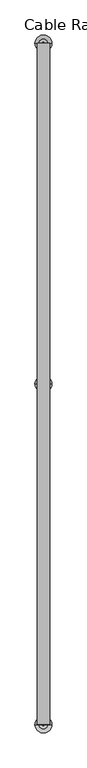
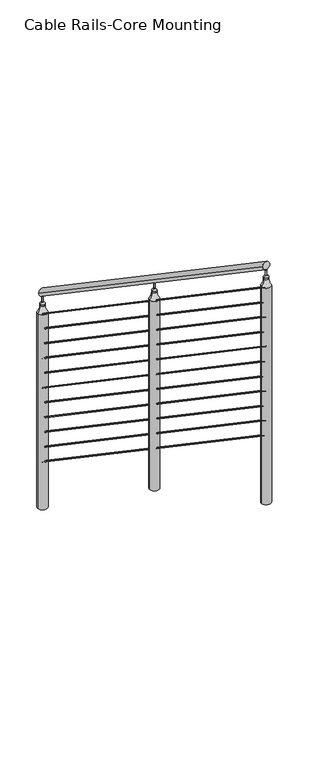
"""IFC4 building model written with IfcOpenShell, lengths in millimetres: railing geometry, Cable Rails-Core Mounting."""

from ifc_helpers import new_model, si_unit, point, frame, origin, place, context, project, spatial, circle_curve, ellipse_curve, trimmed, source, transform, mapped, element, save
from ifc_brep_helpers import plane_surface, cylinder_surface, revolved_surface, advanced_brep


def cable_rails_core_mounting_b1c58ea4(model_context):
    return source(origin(), model_context, "Body", "AdvancedBrep", [
        advanced_brep(
        [(-9508.2387578, -1204.4150713, 1288.843866), (-9470.1387578, -1204.4150713, 1288.843866), (-9508.2387578, -3249.1150713, 2677.7507288), (-9470.1387578, -3249.1150713, 2677.7507288)],
        [
            (0, 1, ellipse_curve(frame((-9489.1887578, -1204.4150713, 1288.843866), z_axis=(0.0, 1.0, 0.0), x_axis=(0.0, 0.0, -1.0)), 23.0293153, 19.05)),
            (1, 0, ellipse_curve(frame((-9489.1887578, -1204.4150713, 1288.843866), z_axis=(0.0, 1.0, 0.0), x_axis=(0.0, 0.0, -1.0)), 23.0293153, 19.05)),
            (2, 3, ellipse_curve(frame((-9489.1887578, -3249.1150713, 2677.7507288), z_axis=(0.0, -1.0, 0.0), x_axis=(0.0, 0.0, -1.0)), 23.0293153, 19.05)),
            (3, 2, ellipse_curve(frame((-9489.1887578, -3249.1150713, 2677.7507288), z_axis=(0.0, -1.0, 0.0), x_axis=(0.0, 0.0, -1.0)), 23.0293153, 19.05)),
            (0, 2),
            (3, 1),
        ],
        [
            plane_surface(frame((-9489.1887578, -1204.4150713, 1311.8731813), z_axis=(0.0, 1.0, 0.0), x_axis=(0.0, 0.0, -1.0))),
            plane_surface(frame((-9489.1887578, -3249.1150713, 2700.780044), z_axis=(0.0, -1.0, 0.0), x_axis=(0.0, 0.0, -1.0))),
            cylinder_surface(frame((-9489.1887578, -1215.1192281, 1296.1148969), z_axis=(0.0, 0.827206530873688, -0.5618979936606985), x_axis=(1.0, 0.0, 0.0)), 19.05),
        ],
        [
            (0, [[1, 2]]),
            (1, [[3, 4]]),
            (2, [[-1, 5, -4, 6]]),
            (2, [[-2, -6, -3, -5]]),
        ],
    ),
        advanced_brep(
        [(-9492.3637578, -1204.4150713, 1168.3349621), (-9486.0137578, -1204.4150713, 1168.3349621), (-9492.3637578, -3249.1150713, 2557.2418248), (-9486.0137578, -3249.1150713, 2557.2418248)],
        [
            (0, 1, ellipse_curve(frame((-9489.1887578, -1204.4150713, 1168.3349621), z_axis=(0.0, 1.0, 0.0), x_axis=(0.0, 0.0, -1.0)), 3.8382192, 3.175)),
            (1, 0, ellipse_curve(frame((-9489.1887578, -1204.4150713, 1168.3349621), z_axis=(0.0, 1.0, 0.0), x_axis=(0.0, 0.0, -1.0)), 3.8382192, 3.175)),
            (2, 3, ellipse_curve(frame((-9489.1887578, -3249.1150713, 2557.2418248), z_axis=(0.0, -1.0, 0.0), x_axis=(0.0, 0.0, -1.0)), 3.8382192, 3.175)),
            (3, 2, ellipse_curve(frame((-9489.1887578, -3249.1150713, 2557.2418248), z_axis=(0.0, -1.0, 0.0), x_axis=(0.0, 0.0, -1.0)), 3.8382192, 3.175)),
            (0, 2),
            (3, 1),
        ],
        [
            plane_surface(frame((-9489.1887578, -1204.4150713, 1172.1731813), z_axis=(0.0, 1.0, 0.0), x_axis=(0.0, 0.0, -1.0))),
            plane_surface(frame((-9489.1887578, -3249.1150713, 2561.080044), z_axis=(0.0, -1.0, 0.0), x_axis=(0.0, 0.0, -1.0))),
            cylinder_surface(frame((-9489.1887578, -1206.1990974, 1169.5468006), z_axis=(0.0, 0.8272065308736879, -0.5618979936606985), x_axis=(1.0, 0.0, 0.0)), 3.175),
        ],
        [
            (0, [[1, 2]]),
            (1, [[3, 4]]),
            (2, [[-1, 5, -4, 6]]),
            (2, [[-2, -6, -3, -5]]),
        ],
    ),
        advanced_brep(
        [(-9492.3637578, -1204.4150713, 1085.7849621), (-9486.0137578, -1204.4150713, 1085.7849621), (-9492.3637578, -3249.1150713, 2474.6918248), (-9486.0137578, -3249.1150713, 2474.6918248)],
        [
            (0, 1, ellipse_curve(frame((-9489.1887578, -1204.4150713, 1085.7849621), z_axis=(0.0, 1.0, 0.0), x_axis=(0.0, 0.0, -1.0)), 3.8382192, 3.175)),
            (1, 0, ellipse_curve(frame((-9489.1887578, -1204.4150713, 1085.7849621), z_axis=(0.0, 1.0, 0.0), x_axis=(0.0, 0.0, -1.0)), 3.8382192, 3.175)),
            (2, 3, ellipse_curve(frame((-9489.1887578, -3249.1150713, 2474.6918248), z_axis=(0.0, -1.0, 0.0), x_axis=(0.0, 0.0, -1.0)), 3.8382192, 3.175)),
            (3, 2, ellipse_curve(frame((-9489.1887578, -3249.1150713, 2474.6918248), z_axis=(0.0, -1.0, 0.0), x_axis=(0.0, 0.0, -1.0)), 3.8382192, 3.175)),
            (0, 2),
            (3, 1),
        ],
        [
            plane_surface(frame((-9489.1887578, -1204.4150713, 1089.6231813), z_axis=(0.0, 1.0, 0.0), x_axis=(0.0, 0.0, -1.0))),
            plane_surface(frame((-9489.1887578, -3249.1150713, 2478.530044), z_axis=(0.0, -1.0, 0.0), x_axis=(0.0, 0.0, -1.0))),
            cylinder_surface(frame((-9489.1887578, -1206.1990974, 1086.9968006), z_axis=(0.0, 0.8272065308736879, -0.5618979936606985), x_axis=(1.0, 0.0, 0.0)), 3.175),
        ],
        [
            (0, [[1, 2]]),
            (1, [[3, 4]]),
            (2, [[-1, 5, -4, 6]]),
            (2, [[-2, -6, -3, -5]]),
        ],
    ),
        advanced_brep(
        [(-9492.3637578, -1204.4150713, 1003.2349621), (-9486.0137578, -1204.4150713, 1003.2349621), (-9492.3637578, -3249.1150713, 2392.1418248), (-9486.0137578, -3249.1150713, 2392.1418248)],
        [
            (0, 1, ellipse_curve(frame((-9489.1887578, -1204.4150713, 1003.2349621), z_axis=(0.0, 1.0, 0.0), x_axis=(0.0, 0.0, -1.0)), 3.8382192, 3.175)),
            (1, 0, ellipse_curve(frame((-9489.1887578, -1204.4150713, 1003.2349621), z_axis=(0.0, 1.0, 0.0), x_axis=(0.0, 0.0, -1.0)), 3.8382192, 3.175)),
            (2, 3, ellipse_curve(frame((-9489.1887578, -3249.1150713, 2392.1418248), z_axis=(0.0, -1.0, 0.0), x_axis=(0.0, 0.0, -1.0)), 3.8382192, 3.175)),
            (3, 2, ellipse_curve(frame((-9489.1887578, -3249.1150713, 2392.1418248), z_axis=(0.0, -1.0, 0.0), x_axis=(0.0, 0.0, -1.0)), 3.8382192, 3.175)),
            (0, 2),
            (3, 1),
        ],
        [
            plane_surface(frame((-9489.1887578, -1204.4150713, 1007.0731813), z_axis=(0.0, 1.0, 0.0), x_axis=(0.0, 0.0, -1.0))),
            plane_surface(frame((-9489.1887578, -3249.1150713, 2395.980044), z_axis=(0.0, -1.0, 0.0), x_axis=(0.0, 0.0, -1.0))),
            cylinder_surface(frame((-9489.1887578, -1206.1990974, 1004.4468006), z_axis=(0.0, 0.827206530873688, -0.5618979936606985), x_axis=(1.0, 0.0, 0.0)), 3.175),
        ],
        [
            (0, [[1, 2]]),
            (1, [[3, 4]]),
            (2, [[-1, 5, -4, 6]]),
            (2, [[-2, -6, -3, -5]]),
        ],
    ),
        advanced_brep(
        [(-9492.3637578, -1204.4150713, 920.6849621), (-9486.0137578, -1204.4150713, 920.6849621), (-9492.3637578, -3249.1150713, 2309.5918248), (-9486.0137578, -3249.1150713, 2309.5918248)],
        [
            (0, 1, ellipse_curve(frame((-9489.1887578, -1204.4150713, 920.6849621), z_axis=(0.0, 1.0, 0.0), x_axis=(0.0, 0.0, -1.0)), 3.8382192, 3.175)),
            (1, 0, ellipse_curve(frame((-9489.1887578, -1204.4150713, 920.6849621), z_axis=(0.0, 1.0, 0.0), x_axis=(0.0, 0.0, -1.0)), 3.8382192, 3.175)),
            (2, 3, ellipse_curve(frame((-9489.1887578, -3249.1150713, 2309.5918248), z_axis=(0.0, -1.0, 0.0), x_axis=(0.0, 0.0, -1.0)), 3.8382192, 3.175)),
            (3, 2, ellipse_curve(frame((-9489.1887578, -3249.1150713, 2309.5918248), z_axis=(0.0, -1.0, 0.0), x_axis=(0.0, 0.0, -1.0)), 3.8382192, 3.175)),
            (0, 2),
            (3, 1),
        ],
        [
            plane_surface(frame((-9489.1887578, -1204.4150713, 924.5231813), z_axis=(0.0, 1.0, 0.0), x_axis=(0.0, 0.0, -1.0))),
            plane_surface(frame((-9489.1887578, -3249.1150713, 2313.430044), z_axis=(0.0, -1.0, 0.0), x_axis=(0.0, 0.0, -1.0))),
            cylinder_surface(frame((-9489.1887578, -1206.1990974, 921.8968006), z_axis=(0.0, 0.8272065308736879, -0.5618979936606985), x_axis=(1.0, 0.0, 0.0)), 3.175),
        ],
        [
            (0, [[1, 2]]),
            (1, [[3, 4]]),
            (2, [[-1, 5, -4, 6]]),
            (2, [[-2, -6, -3, -5]]),
        ],
    ),
        advanced_brep(
        [(-9492.3637578, -1204.4150713, 838.1349621), (-9486.0137578, -1204.4150713, 838.1349621), (-9492.3637578, -3249.1150713, 2227.0418248), (-9486.0137578, -3249.1150713, 2227.0418248)],
        [
            (0, 1, ellipse_curve(frame((-9489.1887578, -1204.4150713, 838.1349621), z_axis=(0.0, 1.0, 0.0), x_axis=(0.0, 0.0, -1.0)), 3.8382192, 3.175)),
            (1, 0, ellipse_curve(frame((-9489.1887578, -1204.4150713, 838.1349621), z_axis=(0.0, 1.0, 0.0), x_axis=(0.0, 0.0, -1.0)), 3.8382192, 3.175)),
            (2, 3, ellipse_curve(frame((-9489.1887578, -3249.1150713, 2227.0418248), z_axis=(0.0, -1.0, 0.0), x_axis=(0.0, 0.0, -1.0)), 3.8382192, 3.175)),
            (3, 2, ellipse_curve(frame((-9489.1887578, -3249.1150713, 2227.0418248), z_axis=(0.0, -1.0, 0.0), x_axis=(0.0, 0.0, -1.0)), 3.8382192, 3.175)),
            (0, 2),
            (3, 1),
        ],
        [
            plane_surface(frame((-9489.1887578, -1204.4150713, 841.9731813), z_axis=(0.0, 1.0, 0.0), x_axis=(0.0, 0.0, -1.0))),
            plane_surface(frame((-9489.1887578, -3249.1150713, 2230.880044), z_axis=(0.0, -1.0, 0.0), x_axis=(0.0, 0.0, -1.0))),
            cylinder_surface(frame((-9489.1887578, -1206.1990974, 839.3468006), z_axis=(0.0, 0.8272065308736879, -0.5618979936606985), x_axis=(1.0, 0.0, 0.0)), 3.175),
        ],
        [
            (0, [[1, 2]]),
            (1, [[3, 4]]),
            (2, [[-1, 5, -4, 6]]),
            (2, [[-2, -6, -3, -5]]),
        ],
    ),
        advanced_brep(
        [(-9492.3637578, -1204.4150713, 755.5849621), (-9486.0137578, -1204.4150713, 755.5849621), (-9492.3637578, -3249.1150713, 2144.4918248), (-9486.0137578, -3249.1150713, 2144.4918248)],
        [
            (0, 1, ellipse_curve(frame((-9489.1887578, -1204.4150713, 755.5849621), z_axis=(0.0, 1.0, 0.0), x_axis=(0.0, 0.0, -1.0)), 3.8382192, 3.175)),
            (1, 0, ellipse_curve(frame((-9489.1887578, -1204.4150713, 755.5849621), z_axis=(0.0, 1.0, 0.0), x_axis=(0.0, 0.0, -1.0)), 3.8382192, 3.175)),
            (2, 3, ellipse_curve(frame((-9489.1887578, -3249.1150713, 2144.4918248), z_axis=(0.0, -1.0, 0.0), x_axis=(0.0, 0.0, -1.0)), 3.8382192, 3.175)),
            (3, 2, ellipse_curve(frame((-9489.1887578, -3249.1150713, 2144.4918248), z_axis=(0.0, -1.0, 0.0), x_axis=(0.0, 0.0, -1.0)), 3.8382192, 3.175)),
            (0, 2),
            (3, 1),
        ],
        [
            plane_surface(frame((-9489.1887578, -1204.4150713, 759.4231813), z_axis=(0.0, 1.0, 0.0), x_axis=(0.0, 0.0, -1.0))),
            plane_surface(frame((-9489.1887578, -3249.1150713, 2148.330044), z_axis=(0.0, -1.0, 0.0), x_axis=(0.0, 0.0, -1.0))),
            cylinder_surface(frame((-9489.1887578, -1206.1990974, 756.7968006), z_axis=(0.0, 0.827206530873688, -0.5618979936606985), x_axis=(1.0, 0.0, 0.0)), 3.175),
        ],
        [
            (0, [[1, 2]]),
            (1, [[3, 4]]),
            (2, [[-1, 5, -4, 6]]),
            (2, [[-2, -6, -3, -5]]),
        ],
    ),
        advanced_brep(
        [(-9492.3637578, -1204.4150713, 673.0349621), (-9486.0137578, -1204.4150713, 673.0349621), (-9492.3637578, -3249.1150713, 2061.9418248), (-9486.0137578, -3249.1150713, 2061.9418248)],
        [
            (0, 1, ellipse_curve(frame((-9489.1887578, -1204.4150713, 673.0349621), z_axis=(0.0, 1.0, 0.0), x_axis=(0.0, 0.0, -1.0)), 3.8382192, 3.175)),
            (1, 0, ellipse_curve(frame((-9489.1887578, -1204.4150713, 673.0349621), z_axis=(0.0, 1.0, 0.0), x_axis=(0.0, 0.0, -1.0)), 3.8382192, 3.175)),
            (2, 3, ellipse_curve(frame((-9489.1887578, -3249.1150713, 2061.9418248), z_axis=(0.0, -1.0, 0.0), x_axis=(0.0, 0.0, -1.0)), 3.8382192, 3.175)),
            (3, 2, ellipse_curve(frame((-9489.1887578, -3249.1150713, 2061.9418248), z_axis=(0.0, -1.0, 0.0), x_axis=(0.0, 0.0, -1.0)), 3.8382192, 3.175)),
            (0, 2),
            (3, 1),
        ],
        [
            plane_surface(frame((-9489.1887578, -1204.4150713, 676.8731813), z_axis=(0.0, 1.0, 0.0), x_axis=(0.0, 0.0, -1.0))),
            plane_surface(frame((-9489.1887578, -3249.1150713, 2065.780044), z_axis=(0.0, -1.0, 0.0), x_axis=(0.0, 0.0, -1.0))),
            cylinder_surface(frame((-9489.1887578, -1206.1990974, 674.2468006), z_axis=(0.0, 0.8272065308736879, -0.5618979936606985), x_axis=(1.0, 0.0, 0.0)), 3.175),
        ],
        [
            (0, [[1, 2]]),
            (1, [[3, 4]]),
            (2, [[-1, 5, -4, 6]]),
            (2, [[-2, -6, -3, -5]]),
        ],
    ),
        advanced_brep(
        [(-9492.3637578, -1204.4150713, 590.4849621), (-9486.0137578, -1204.4150713, 590.4849621), (-9492.3637578, -3249.1150713, 1979.3918248), (-9486.0137578, -3249.1150713, 1979.3918248)],
        [
            (0, 1, ellipse_curve(frame((-9489.1887578, -1204.4150713, 590.4849621), z_axis=(0.0, 1.0, 0.0), x_axis=(0.0, 0.0, -1.0)), 3.8382192, 3.175)),
            (1, 0, ellipse_curve(frame((-9489.1887578, -1204.4150713, 590.4849621), z_axis=(0.0, 1.0, 0.0), x_axis=(0.0, 0.0, -1.0)), 3.8382192, 3.175)),
            (2, 3, ellipse_curve(frame((-9489.1887578, -3249.1150713, 1979.3918248), z_axis=(0.0, -1.0, 0.0), x_axis=(0.0, 0.0, -1.0)), 3.8382192, 3.175)),
            (3, 2, ellipse_curve(frame((-9489.1887578, -3249.1150713, 1979.3918248), z_axis=(0.0, -1.0, 0.0), x_axis=(0.0, 0.0, -1.0)), 3.8382192, 3.175)),
            (0, 2),
            (3, 1),
        ],
        [
            plane_surface(frame((-9489.1887578, -1204.4150713, 594.3231813), z_axis=(0.0, 1.0, 0.0), x_axis=(0.0, 0.0, -1.0))),
            plane_surface(frame((-9489.1887578, -3249.1150713, 1983.230044), z_axis=(0.0, -1.0, 0.0), x_axis=(0.0, 0.0, -1.0))),
            cylinder_surface(frame((-9489.1887578, -1206.1990974, 591.6968006), z_axis=(0.0, 0.8272065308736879, -0.5618979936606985), x_axis=(1.0, 0.0, 0.0)), 3.175),
        ],
        [
            (0, [[1, 2]]),
            (1, [[3, 4]]),
            (2, [[-1, 5, -4, 6]]),
            (2, [[-2, -6, -3, -5]]),
        ],
    ),
        advanced_brep(
        [(-9492.3637578, -1204.4150713, 507.9349621), (-9486.0137578, -1204.4150713, 507.9349621), (-9492.3637578, -3249.1150713, 1896.8418248), (-9486.0137578, -3249.1150713, 1896.8418248)],
        [
            (0, 1, ellipse_curve(frame((-9489.1887578, -1204.4150713, 507.9349621), z_axis=(0.0, 1.0, 0.0), x_axis=(0.0, 0.0, -1.0)), 3.8382192, 3.175)),
            (1, 0, ellipse_curve(frame((-9489.1887578, -1204.4150713, 507.9349621), z_axis=(0.0, 1.0, 0.0), x_axis=(0.0, 0.0, -1.0)), 3.8382192, 3.175)),
            (2, 3, ellipse_curve(frame((-9489.1887578, -3249.1150713, 1896.8418248), z_axis=(0.0, -1.0, 0.0), x_axis=(0.0, 0.0, -1.0)), 3.8382192, 3.175)),
            (3, 2, ellipse_curve(frame((-9489.1887578, -3249.1150713, 1896.8418248), z_axis=(0.0, -1.0, 0.0), x_axis=(0.0, 0.0, -1.0)), 3.8382192, 3.175)),
            (0, 2),
            (3, 1),
        ],
        [
            plane_surface(frame((-9489.1887578, -1204.4150713, 511.7731813), z_axis=(0.0, 1.0, 0.0), x_axis=(0.0, 0.0, -1.0))),
            plane_surface(frame((-9489.1887578, -3249.1150713, 1900.680044), z_axis=(0.0, -1.0, 0.0), x_axis=(0.0, 0.0, -1.0))),
            cylinder_surface(frame((-9489.1887578, -1206.1990974, 509.1468006), z_axis=(0.0, 0.8272065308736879, -0.5618979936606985), x_axis=(1.0, 0.0, 0.0)), 3.175),
        ],
        [
            (0, [[1, 2]]),
            (1, [[3, 4]]),
            (2, [[-1, 5, -4, 6]]),
            (2, [[-2, -6, -3, -5]]),
        ],
    ),
        advanced_brep(
        [(-9492.3637578, -1204.4150713, 425.3849621), (-9486.0137578, -1204.4150713, 425.3849621), (-9492.3637578, -3249.1150713, 1814.2918248), (-9486.0137578, -3249.1150713, 1814.2918248)],
        [
            (0, 1, ellipse_curve(frame((-9489.1887578, -1204.4150713, 425.3849621), z_axis=(0.0, 1.0, 0.0), x_axis=(0.0, 0.0, -1.0)), 3.8382192, 3.175)),
            (1, 0, ellipse_curve(frame((-9489.1887578, -1204.4150713, 425.3849621), z_axis=(0.0, 1.0, 0.0), x_axis=(0.0, 0.0, -1.0)), 3.8382192, 3.175)),
            (2, 3, ellipse_curve(frame((-9489.1887578, -3249.1150713, 1814.2918248), z_axis=(0.0, -1.0, 0.0), x_axis=(0.0, 0.0, -1.0)), 3.8382192, 3.175)),
            (3, 2, ellipse_curve(frame((-9489.1887578, -3249.1150713, 1814.2918248), z_axis=(0.0, -1.0, 0.0), x_axis=(0.0, 0.0, -1.0)), 3.8382192, 3.175)),
            (0, 2),
            (3, 1),
        ],
        [
            plane_surface(frame((-9489.1887578, -1204.4150713, 429.2231813), z_axis=(0.0, 1.0, 0.0), x_axis=(0.0, 0.0, -1.0))),
            plane_surface(frame((-9489.1887578, -3249.1150713, 1818.130044), z_axis=(0.0, -1.0, 0.0), x_axis=(0.0, 0.0, -1.0))),
            cylinder_surface(frame((-9489.1887578, -1206.1990974, 426.5968006), z_axis=(0.0, 0.8272065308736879, -0.5618979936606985), x_axis=(1.0, 0.0, 0.0)), 3.175),
        ],
        [
            (0, [[1, 2]]),
            (1, [[3, 4]]),
            (2, [[-1, 5, -4, 6]]),
            (2, [[-2, -6, -3, -5]]),
        ],
    ),
        advanced_brep(
        [(-9492.3637578, -1204.4150713, 342.8349621), (-9486.0137578, -1204.4150713, 342.8349621), (-9492.3637578, -3249.1150713, 1731.7418248), (-9486.0137578, -3249.1150713, 1731.7418248)],
        [
            (0, 1, ellipse_curve(frame((-9489.1887578, -1204.4150713, 342.8349621), z_axis=(0.0, 1.0, 0.0), x_axis=(0.0, 0.0, -1.0)), 3.8382192, 3.175)),
            (1, 0, ellipse_curve(frame((-9489.1887578, -1204.4150713, 342.8349621), z_axis=(0.0, 1.0, 0.0), x_axis=(0.0, 0.0, -1.0)), 3.8382192, 3.175)),
            (2, 3, ellipse_curve(frame((-9489.1887578, -3249.1150713, 1731.7418248), z_axis=(0.0, -1.0, 0.0), x_axis=(0.0, 0.0, -1.0)), 3.8382192, 3.175)),
            (3, 2, ellipse_curve(frame((-9489.1887578, -3249.1150713, 1731.7418248), z_axis=(0.0, -1.0, 0.0), x_axis=(0.0, 0.0, -1.0)), 3.8382192, 3.175)),
            (0, 2),
            (3, 1),
        ],
        [
            plane_surface(frame((-9489.1887578, -1204.4150713, 346.6731813), z_axis=(0.0, 1.0, 0.0), x_axis=(0.0, 0.0, -1.0))),
            plane_surface(frame((-9489.1887578, -3249.1150713, 1735.580044), z_axis=(0.0, -1.0, 0.0), x_axis=(0.0, 0.0, -1.0))),
            cylinder_surface(frame((-9489.1887578, -1206.1990974, 344.0468006), z_axis=(0.0, 0.8272065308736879, -0.5618979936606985), x_axis=(1.0, 0.0, 0.0)), 3.175),
        ],
        [
            (0, [[1, 2]]),
            (1, [[3, 4]]),
            (2, [[-1, 5, -4, 6]]),
            (2, [[-2, -6, -3, -5]]),
        ],
    ),
        advanced_brep(
        [(-9463.78936, -2227.1619463, 1872.7027675), (-9463.78936, -2227.1619463, 816.9088235), (-9514.5881556, -2227.1619463, 816.9088235), (-9514.5881556, -2227.1619463, 1872.7027675), (-9476.4507892, -2227.1619463, 1910.9166023), (-9501.9267263, -2227.1619463, 1910.9166023), (-9476.4507892, -2227.1619463, 1919.8996598), (-9501.9267263, -2227.1619463, 1919.8996598), (-9485.5892556, -2227.1619463, 1928.858257), (-9492.78826, -2227.1619463, 1928.858257), (-9485.5892556, -2227.1619463, 1960.2679821), (-9492.78826, -2227.1619463, 1960.2679821), (-9489.1887578, -2227.1619463, 1960.2679821), (-9489.1887578, -2227.1619463, 816.9088235)],
        [
            (0, 1),
            (1, 2, circle_curve(frame((-9489.1887578, -2227.1619463, 816.9088235), z_axis=(0.0, 0.0, 1.0), x_axis=(-1.0, 0.0, 0.0)), 25.3993978)),
            (2, 3),
            (3, 0, circle_curve(frame((-9489.1887578, -2227.1619463, 1872.7027675), z_axis=(0.0, 0.0, -1.0), x_axis=(-1.0, 0.0, 0.0)), 25.3993978)),
            (2, 1, circle_curve(frame((-9489.1887578, -2227.1619463, 816.9088235), z_axis=(0.0, 0.0, 1.0), x_axis=(-1.0, 0.0, 0.0)), 25.3993978)),
            (0, 3, circle_curve(frame((-9489.1887578, -2227.1619463, 1872.7027675), z_axis=(0.0, 0.0, -1.0), x_axis=(-1.0, 0.0, 0.0)), 25.3993978)),
            (4, 0, circle_curve(frame((-9412.4529209, -2227.1619463, 1910.9166023), z_axis=(0.0, -1.0, 0.0), x_axis=(1.0, 0.0, 0.0)), 63.9978683)),
            (3, 5, circle_curve(frame((-9565.9245946, -2227.1619463, 1910.9166023), z_axis=(0.0, -1.0, 0.0), x_axis=(-1.0, 0.0, 0.0)), 63.9978683)),
            (5, 4, circle_curve(frame((-9489.1887578, -2227.1619463, 1910.9166023), z_axis=(0.0, 0.0, -1.0), x_axis=(-1.0, 0.0, 0.0)), 12.7379685)),
            (4, 5, circle_curve(frame((-9489.1887578, -2227.1619463, 1910.9166023), z_axis=(0.0, 0.0, -1.0), x_axis=(-1.0, 0.0, 0.0)), 12.7379685)),
            (6, 4),
            (5, 7),
            (7, 6, circle_curve(frame((-9489.1887578, -2227.1619463, 1919.8996598), z_axis=(0.0, 0.0, -1.0), x_axis=(-1.0, 0.0, 0.0)), 12.7379685)),
            (6, 7, circle_curve(frame((-9489.1887578, -2227.1619463, 1919.8996598), z_axis=(0.0, 0.0, -1.0), x_axis=(-1.0, 0.0, 0.0)), 12.7379685)),
            (8, 6, circle_curve(frame((-9489.2288836, -2227.1619463, 1916.0052811), z_axis=(0.0, 1.0, 0.0), x_axis=(1.0, 0.0, 0.0)), 13.3583638)),
            (7, 9, circle_curve(frame((-9489.148632, -2227.1619463, 1916.0052811), z_axis=(0.0, 1.0, 0.0), x_axis=(-1.0, 0.0, 0.0)), 13.3583638)),
            (9, 8, circle_curve(frame((-9489.1887578, -2227.1619463, 1928.858257), z_axis=(0.0, 0.0, -1.0), x_axis=(-1.0, 0.0, 0.0)), 3.5995022)),
            (8, 9, circle_curve(frame((-9489.1887578, -2227.1619463, 1928.858257), z_axis=(0.0, 0.0, -1.0), x_axis=(-1.0, 0.0, 0.0)), 3.5995022)),
            (10, 8),
            (9, 11),
            (11, 10, circle_curve(frame((-9489.1887578, -2227.1619463, 1960.2679821), z_axis=(0.0, 0.0, -1.0), x_axis=(-1.0, 0.0, 0.0)), 3.5995022)),
            (10, 11, circle_curve(frame((-9489.1887578, -2227.1619463, 1960.2679821), z_axis=(0.0, 0.0, -1.0), x_axis=(-1.0, 0.0, 0.0)), 3.5995022)),
            (12, 10),
            (11, 12),
            (1, 13),
            (13, 2),
        ],
        [
            cylinder_surface(frame((-9489.1887578, -2227.1619463, 2036.4679821), z_axis=(0.0, 0.0, 1.0), x_axis=(-1.0, 0.0, 0.0)), 25.3993978),
            revolved_surface(trimmed(ellipse_curve(frame((-9565.9245946, -2227.1619463, 1910.9166023), z_axis=(0.0, -1.0, 0.0), x_axis=(-1.0, 0.0, 0.0)), 63.9978683, 63.9978683), [point((-9514.5881556, -2227.1619463, 1872.7027675))], [point((-9501.9267263, -2227.1619463, 1910.9166023))], True, "CARTESIAN"), (-9489.1887578, -2227.1619463, 2036.4679821), (0.0, 0.0, 1.0)),
            cylinder_surface(frame((-9489.1887578, -2227.1619463, 2036.4679821), z_axis=(0.0, 0.0, 1.0), x_axis=(-1.0, 0.0, 0.0)), 12.7379685),
            revolved_surface(trimmed(ellipse_curve(frame((-9489.148632, -2227.1619463, 1916.0052811), z_axis=(0.0, 1.0, 0.0), x_axis=(-1.0, 0.0, 0.0)), 13.3583638, 13.3583638), [point((-9501.9267263, -2227.1619463, 1919.8996598))], [point((-9492.78826, -2227.1619463, 1928.858257))], True, "CARTESIAN"), (-9489.1887578, -2227.1619463, 2036.4679821), (0.0, 0.0, 1.0)),
            cylinder_surface(frame((-9489.1887578, -2227.1619463, 2036.4679821), z_axis=(0.0, 0.0, 1.0), x_axis=(-1.0, 0.0, 0.0)), 3.5995022),
            plane_surface(frame((-9489.1887578, -2227.1619463, 1960.2679821), z_axis=(0.0, 0.0, 1.0), x_axis=(-1.0, 0.0, 0.0))),
            plane_surface(frame((-9489.1887578, -2227.1619463, 816.9088235), z_axis=(0.0, 0.0, -1.0), x_axis=(-1.0, 0.0, 0.0))),
        ],
        [
            (0, [[1, 2, 3, 4]]),
            (0, [[-3, 5, -1, 6]]),
            (1, [[7, -4, 8, 9]]),
            (1, [[-8, -6, -7, 10]]),
            (2, [[11, -9, 12, 13]]),
            (2, [[-12, -10, -11, 14]]),
            (3, [[15, -13, 16, 17]]),
            (3, [[-16, -14, -15, 18]]),
            (4, [[19, -17, 20, 21]]),
            (4, [[-20, -18, -19, 22]]),
            (5, [[23, -21, 24]]),
            (5, [[-24, -22, -23]]),
            (6, [[25, 26, -2]]),
            (6, [[-26, -25, -5]]),
        ],
    ),
        advanced_brep(
        [(-9463.78936, -3249.5119463, 2567.1561989), (-9463.78936, -3249.5119463, 1360.3941176), (-9514.5881556, -3249.5119463, 1360.3941176), (-9514.5881556, -3249.5119463, 2567.1561989), (-9476.4507892, -3249.5119463, 2605.3700337), (-9501.9267263, -3249.5119463, 2605.3700337), (-9476.4507892, -3249.5119463, 2614.3530912), (-9501.9267263, -3249.5119463, 2614.3530912), (-9485.5892556, -3249.5119463, 2623.3116883), (-9492.78826, -3249.5119463, 2623.3116883), (-9485.5892556, -3249.5119463, 2654.7214135), (-9492.78826, -3249.5119463, 2654.7214135), (-9489.1887578, -3249.5119463, 2654.7214135), (-9489.1887578, -3249.5119463, 1360.3941176)],
        [
            (0, 1),
            (1, 2, circle_curve(frame((-9489.1887578, -3249.5119463, 1360.3941176), z_axis=(0.0, 0.0, 1.0), x_axis=(-1.0, 0.0, 0.0)), 25.3993978)),
            (2, 3),
            (3, 0, circle_curve(frame((-9489.1887578, -3249.5119463, 2567.1561989), z_axis=(0.0, 0.0, -1.0), x_axis=(-1.0, 0.0, 0.0)), 25.3993978)),
            (2, 1, circle_curve(frame((-9489.1887578, -3249.5119463, 1360.3941176), z_axis=(0.0, 0.0, 1.0), x_axis=(-1.0, 0.0, 0.0)), 25.3993978)),
            (0, 3, circle_curve(frame((-9489.1887578, -3249.5119463, 2567.1561989), z_axis=(0.0, 0.0, -1.0), x_axis=(-1.0, 0.0, 0.0)), 25.3993978)),
            (4, 0, circle_curve(frame((-9412.4529209, -3249.5119463, 2605.3700337), z_axis=(0.0, -1.0, 0.0), x_axis=(1.0, 0.0, 0.0)), 63.9978683)),
            (3, 5, circle_curve(frame((-9565.9245946, -3249.5119463, 2605.3700337), z_axis=(0.0, -1.0, 0.0), x_axis=(-1.0, 0.0, 0.0)), 63.9978683)),
            (5, 4, circle_curve(frame((-9489.1887578, -3249.5119463, 2605.3700337), z_axis=(0.0, 0.0, -1.0), x_axis=(-1.0, 0.0, 0.0)), 12.7379685)),
            (4, 5, circle_curve(frame((-9489.1887578, -3249.5119463, 2605.3700337), z_axis=(0.0, 0.0, -1.0), x_axis=(-1.0, 0.0, 0.0)), 12.7379685)),
            (6, 4),
            (5, 7),
            (7, 6, circle_curve(frame((-9489.1887578, -3249.5119463, 2614.3530912), z_axis=(0.0, 0.0, -1.0), x_axis=(-1.0, 0.0, 0.0)), 12.7379685)),
            (6, 7, circle_curve(frame((-9489.1887578, -3249.5119463, 2614.3530912), z_axis=(0.0, 0.0, -1.0), x_axis=(-1.0, 0.0, 0.0)), 12.7379685)),
            (8, 6, circle_curve(frame((-9489.2288836, -3249.5119463, 2610.4587124), z_axis=(0.0, 1.0, 0.0), x_axis=(1.0, 0.0, 0.0)), 13.3583638)),
            (7, 9, circle_curve(frame((-9489.148632, -3249.5119463, 2610.4587124), z_axis=(0.0, 1.0, 0.0), x_axis=(-1.0, 0.0, 0.0)), 13.3583638)),
            (9, 8, circle_curve(frame((-9489.1887578, -3249.5119463, 2623.3116883), z_axis=(0.0, 0.0, -1.0), x_axis=(-1.0, 0.0, 0.0)), 3.5995022)),
            (8, 9, circle_curve(frame((-9489.1887578, -3249.5119463, 2623.3116883), z_axis=(0.0, 0.0, -1.0), x_axis=(-1.0, 0.0, 0.0)), 3.5995022)),
            (10, 8),
            (9, 11),
            (11, 10, circle_curve(frame((-9489.1887578, -3249.5119463, 2654.7214135), z_axis=(0.0, 0.0, -1.0), x_axis=(-1.0, 0.0, 0.0)), 3.5995022)),
            (10, 11, circle_curve(frame((-9489.1887578, -3249.5119463, 2654.7214135), z_axis=(0.0, 0.0, -1.0), x_axis=(-1.0, 0.0, 0.0)), 3.5995022)),
            (12, 10),
            (11, 12),
            (1, 13),
            (13, 2),
        ],
        [
            cylinder_surface(frame((-9489.1887578, -3249.5119463, 2730.9214135), z_axis=(0.0, 0.0, 1.0), x_axis=(-1.0, 0.0, 0.0)), 25.3993978),
            revolved_surface(trimmed(ellipse_curve(frame((-9565.9245946, -3249.5119463, 2605.3700337), z_axis=(0.0, -1.0, 0.0), x_axis=(-1.0, 0.0, 0.0)), 63.9978683, 63.9978683), [point((-9514.5881556, -3249.5119463, 2567.1561989))], [point((-9501.9267263, -3249.5119463, 2605.3700337))], True, "CARTESIAN"), (-9489.1887578, -3249.5119463, 2730.9214135), (0.0, 0.0, 1.0)),
            cylinder_surface(frame((-9489.1887578, -3249.5119463, 2730.9214135), z_axis=(0.0, 0.0, 1.0), x_axis=(-1.0, 0.0, 0.0)), 12.7379685),
            revolved_surface(trimmed(ellipse_curve(frame((-9489.148632, -3249.5119463, 2610.4587124), z_axis=(0.0, 1.0, 0.0), x_axis=(-1.0, 0.0, 0.0)), 13.3583638, 13.3583638), [point((-9501.9267263, -3249.5119463, 2614.3530912))], [point((-9492.78826, -3249.5119463, 2623.3116883))], True, "CARTESIAN"), (-9489.1887578, -3249.5119463, 2730.9214135), (0.0, 0.0, 1.0)),
            cylinder_surface(frame((-9489.1887578, -3249.5119463, 2730.9214135), z_axis=(0.0, 0.0, 1.0), x_axis=(-1.0, 0.0, 0.0)), 3.5995022),
            plane_surface(frame((-9489.1887578, -3249.5119463, 2654.7214135), z_axis=(0.0, 0.0, 1.0), x_axis=(-1.0, 0.0, 0.0))),
            plane_surface(frame((-9489.1887578, -3249.5119463, 1360.3941176), z_axis=(0.0, 0.0, -1.0), x_axis=(-1.0, 0.0, 0.0))),
        ],
        [
            (0, [[1, 2, 3, 4]]),
            (0, [[-3, 5, -1, 6]]),
            (1, [[7, -4, 8, 9]]),
            (1, [[-8, -6, -7, 10]]),
            (2, [[11, -9, 12, 13]]),
            (2, [[-12, -10, -11, 14]]),
            (3, [[15, -13, 16, 17]]),
            (3, [[-16, -14, -15, 18]]),
            (4, [[19, -17, 20, 21]]),
            (4, [[-20, -18, -19, 22]]),
            (5, [[23, -21, 24]]),
            (5, [[-24, -22, -23]]),
            (6, [[25, 26, -2]]),
            (6, [[-26, -25, -5]]),
        ],
    ),
        advanced_brep(
        [(-9463.78936, -1204.8119463, 1178.2493361), (-9463.78936, -1204.8119463, 92.2617647), (-9514.5881556, -1204.8119463, 92.2617647), (-9514.5881556, -1204.8119463, 1178.2493361), (-9476.4507892, -1204.8119463, 1216.463171), (-9501.9267263, -1204.8119463, 1216.463171), (-9476.4507892, -1204.8119463, 1225.4462285), (-9501.9267263, -1204.8119463, 1225.4462285), (-9485.5892556, -1204.8119463, 1234.4048256), (-9492.78826, -1204.8119463, 1234.4048256), (-9485.5892556, -1204.8119463, 1265.8145507), (-9492.78826, -1204.8119463, 1265.8145507), (-9489.1887578, -1204.8119463, 1265.8145507), (-9489.1887578, -1204.8119463, 92.2617647)],
        [
            (0, 1),
            (1, 2, circle_curve(frame((-9489.1887578, -1204.8119463, 92.2617647), z_axis=(0.0, 0.0, 1.0), x_axis=(-1.0, 0.0, 0.0)), 25.3993978)),
            (2, 3),
            (3, 0, circle_curve(frame((-9489.1887578, -1204.8119463, 1178.2493361), z_axis=(0.0, 0.0, -1.0), x_axis=(-1.0, 0.0, 0.0)), 25.3993978)),
            (2, 1, circle_curve(frame((-9489.1887578, -1204.8119463, 92.2617647), z_axis=(0.0, 0.0, 1.0), x_axis=(-1.0, 0.0, 0.0)), 25.3993978)),
            (0, 3, circle_curve(frame((-9489.1887578, -1204.8119463, 1178.2493361), z_axis=(0.0, 0.0, -1.0), x_axis=(-1.0, 0.0, 0.0)), 25.3993978)),
            (4, 0, circle_curve(frame((-9412.4529209, -1204.8119463, 1216.463171), z_axis=(0.0, -1.0, 0.0), x_axis=(1.0, 0.0, 0.0)), 63.9978683)),
            (3, 5, circle_curve(frame((-9565.9245946, -1204.8119463, 1216.463171), z_axis=(0.0, -1.0, 0.0), x_axis=(-1.0, 0.0, 0.0)), 63.9978683)),
            (5, 4, circle_curve(frame((-9489.1887578, -1204.8119463, 1216.463171), z_axis=(0.0, 0.0, -1.0), x_axis=(-1.0, 0.0, 0.0)), 12.7379685)),
            (4, 5, circle_curve(frame((-9489.1887578, -1204.8119463, 1216.463171), z_axis=(0.0, 0.0, -1.0), x_axis=(-1.0, 0.0, 0.0)), 12.7379685)),
            (6, 4),
            (5, 7),
            (7, 6, circle_curve(frame((-9489.1887578, -1204.8119463, 1225.4462285), z_axis=(0.0, 0.0, -1.0), x_axis=(-1.0, 0.0, 0.0)), 12.7379685)),
            (6, 7, circle_curve(frame((-9489.1887578, -1204.8119463, 1225.4462285), z_axis=(0.0, 0.0, -1.0), x_axis=(-1.0, 0.0, 0.0)), 12.7379685)),
            (8, 6, circle_curve(frame((-9489.2288836, -1204.8119463, 1221.5518497), z_axis=(0.0, 1.0, 0.0), x_axis=(1.0, 0.0, 0.0)), 13.3583638)),
            (7, 9, circle_curve(frame((-9489.148632, -1204.8119463, 1221.5518497), z_axis=(0.0, 1.0, 0.0), x_axis=(-1.0, 0.0, 0.0)), 13.3583638)),
            (9, 8, circle_curve(frame((-9489.1887578, -1204.8119463, 1234.4048256), z_axis=(0.0, 0.0, -1.0), x_axis=(-1.0, 0.0, 0.0)), 3.5995022)),
            (8, 9, circle_curve(frame((-9489.1887578, -1204.8119463, 1234.4048256), z_axis=(0.0, 0.0, -1.0), x_axis=(-1.0, 0.0, 0.0)), 3.5995022)),
            (10, 8),
            (9, 11),
            (11, 10, circle_curve(frame((-9489.1887578, -1204.8119463, 1265.8145507), z_axis=(0.0, 0.0, -1.0), x_axis=(-1.0, 0.0, 0.0)), 3.5995022)),
            (10, 11, circle_curve(frame((-9489.1887578, -1204.8119463, 1265.8145507), z_axis=(0.0, 0.0, -1.0), x_axis=(-1.0, 0.0, 0.0)), 3.5995022)),
            (12, 10),
            (11, 12),
            (1, 13),
            (13, 2),
        ],
        [
            cylinder_surface(frame((-9489.1887578, -1204.8119463, 1342.0145507), z_axis=(0.0, 0.0, 1.0), x_axis=(-1.0, 0.0, 0.0)), 25.3993978),
            revolved_surface(trimmed(ellipse_curve(frame((-9565.9245946, -1204.8119463, 1216.463171), z_axis=(0.0, -1.0, 0.0), x_axis=(-1.0, 0.0, 0.0)), 63.9978683, 63.9978683), [point((-9514.5881556, -1204.8119463, 1178.2493361))], [point((-9501.9267263, -1204.8119463, 1216.463171))], True, "CARTESIAN"), (-9489.1887578, -1204.8119463, 1342.0145507), (0.0, 0.0, 1.0)),
            cylinder_surface(frame((-9489.1887578, -1204.8119463, 1342.0145507), z_axis=(0.0, 0.0, 1.0), x_axis=(-1.0, 0.0, 0.0)), 12.7379685),
            revolved_surface(trimmed(ellipse_curve(frame((-9489.148632, -1204.8119463, 1221.5518497), z_axis=(0.0, 1.0, 0.0), x_axis=(-1.0, 0.0, 0.0)), 13.3583638, 13.3583638), [point((-9501.9267263, -1204.8119463, 1225.4462285))], [point((-9492.78826, -1204.8119463, 1234.4048256))], True, "CARTESIAN"), (-9489.1887578, -1204.8119463, 1342.0145507), (0.0, 0.0, 1.0)),
            cylinder_surface(frame((-9489.1887578, -1204.8119463, 1342.0145507), z_axis=(0.0, 0.0, 1.0), x_axis=(-1.0, 0.0, 0.0)), 3.5995022),
            plane_surface(frame((-9489.1887578, -1204.8119463, 1265.8145507), z_axis=(0.0, 0.0, 1.0), x_axis=(-1.0, 0.0, 0.0))),
            plane_surface(frame((-9489.1887578, -1204.8119463, 92.2617647), z_axis=(0.0, 0.0, -1.0), x_axis=(-1.0, 0.0, 0.0))),
        ],
        [
            (0, [[1, 2, 3, 4]]),
            (0, [[-3, 5, -1, 6]]),
            (1, [[7, -4, 8, 9]]),
            (1, [[-8, -6, -7, 10]]),
            (2, [[11, -9, 12, 13]]),
            (2, [[-12, -10, -11, 14]]),
            (3, [[15, -13, 16, 17]]),
            (3, [[-16, -14, -15, 18]]),
            (4, [[19, -17, 20, 21]]),
            (4, [[-20, -18, -19, 22]]),
            (5, [[23, -21, 24]]),
            (5, [[-24, -22, -23]]),
            (6, [[25, 26, -2]]),
            (6, [[-26, -25, -5]]),
        ],
    ),
    ])


if __name__ == "__main__":
    model = new_model("IFC4")
    model_context = context("Model", 3, world=origin())
    ifc_project = project(units=[si_unit("LENGTHUNIT", "METRE", prefix="MILLI")], contexts=[model_context])
    site = spatial("IfcSite", under=ifc_project)
    building = spatial("IfcBuilding", under=site)
    placement = place(None, origin())
    cable_rails_core_mounting_shape = cable_rails_core_mounting_b1c58ea4(model_context)
    element("IfcRailing", 1, ObjectType="Cable Rails-Core Mounting", at=placement, inside=building, context=model_context, shape_type="MappedRepresentation", body=[
        mapped(cable_rails_core_mounting_shape, transform((0.0, 0.0, 0.0), x_axis=(1.0, 0.0, 0.0), y_axis=(0.0, 1.0, 0.0), z_axis=(0.0, 0.0, 1.0))),
    ])
    save(model, "model.ifc")
